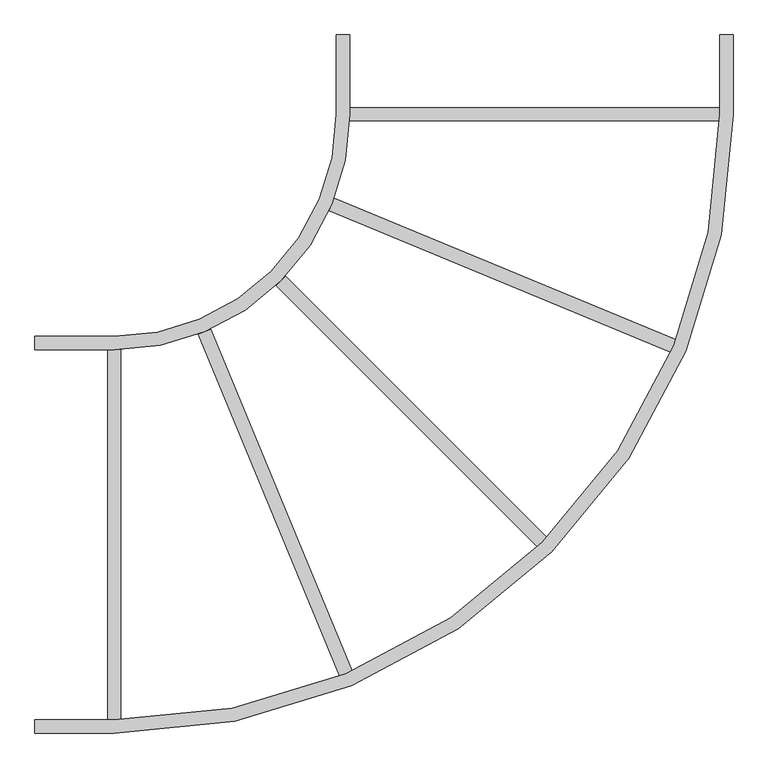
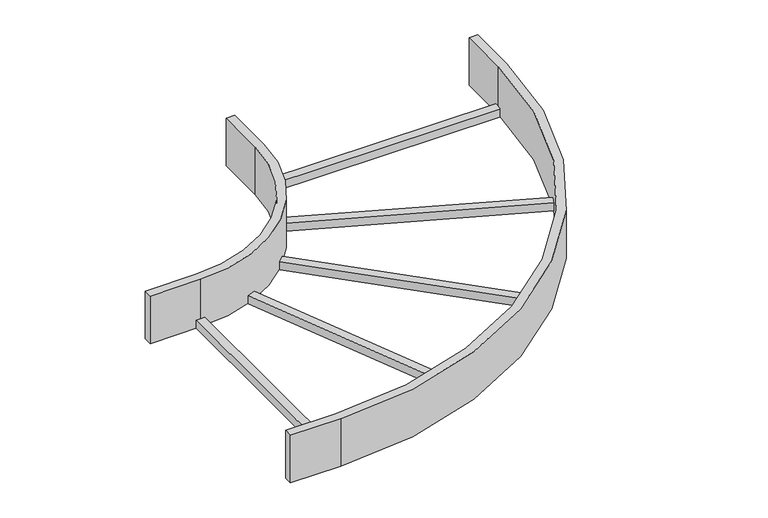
"""IFC4 building model written with IfcOpenShell, lengths in millimetres: cable carrier fitting geometry, BAKS_LD_BEND_Horizontal bend_LDV : LDVC_H100."""

from ifc_helpers import new_model, si_unit, point, frame, frame_2d, origin, place, context, project, spatial, polyline, circle_curve, trimmed, segment, composite_curve, outline, extrude, source, transform, mapped, element, save


def cable_carrier_fitting_9c7536f1(model_context):
    return source(origin(), model_context, "Body", "SweptSolid", [
        extrude(outline(polyline([(-388.3641358, 612.8195292), (-378.6439766, 636.2860693), (267.3325925, 368.7138134), (257.6124333, 345.2472733), (-388.3641358, 612.8195292)])), frame((0.0, 0.0, -75.0), z_axis=(0.0, 0.0, 1.0), x_axis=(1.0, 0.0, 0.0)), (0.0, 0.0, 1.0), 25.4),
        extrude(outline(polyline([(-636.2860693, 378.6439766), (-612.8195292, 388.3641358), (-345.2472733, -257.6124333), (-368.7138134, -267.3325925), (-636.2860693, 378.6439766)])), frame((0.0, 0.0, -75.0), z_axis=(0.0, 0.0, 1.0), x_axis=(1.0, 0.0, 0.0)), (0.0, 0.0, 1.0), 25.4),
        extrude(outline(polyline([(-349.6, 782.3), (-349.6, 807.7), (349.6, 807.7), (349.6, 782.3), (-349.6, 782.3)])), frame((0.0, 0.0, -75.0), z_axis=(0.0, 0.0, 1.0), x_axis=(1.0, 0.0, 0.0)), (0.0, 0.0, 1.0), 25.4),
        extrude(outline(polyline([(-807.7, 349.6), (-782.3, 349.6), (-782.3, -349.6), (-807.7, -349.6), (-807.7, 349.6)])), frame((0.0, 0.0, -75.0), z_axis=(0.0, 0.0, 1.0), x_axis=(1.0, 0.0, 0.0)), (0.0, 0.0, 1.0), 25.4),
        extrude(outline(polyline([(-489.0348958, 471.0743835), (-471.0743835, 489.0348958), (23.3346779, -5.3741656), (5.3741656, -23.3346779), (-489.0348958, 471.0743835)])), frame((0.0, 0.0, -75.0), z_axis=(0.0, 0.0, 1.0), x_axis=(1.0, 0.0, 0.0)), (0.0, 0.0, 1.0), 25.4),
        extrude(outline(composite_curve([segment(polyline([(-945.0, -375.0), (-945.0, -349.6), (-795.0, -349.6)]), True, "CONTINUOUS"), segment(trimmed(circle_curve(frame_2d((-795.0, 795.0)), 1144.6), [point((-795.0, -349.6))], [point((349.6, 795.0))], True, "CARTESIAN"), True, "CONTINUOUS"), segment(polyline([(349.6, 795.0), (349.6, 945.0), (375.0, 945.0), (375.0, 795.0)]), True, "CONTINUOUS"), segment(trimmed(circle_curve(frame_2d((-795.0, 795.0)), 1170.0), [point((375.0, 795.0))], [point((-795.0, -375.0))], False, "CARTESIAN"), True, "CONTINUOUS"), segment(polyline([(-795.0, -375.0), (-945.0, -375.0)]), True, "CONTINUOUS")], self_intersect=False)), frame((0.0, 0.0, -75.0), z_axis=(0.0, 0.0, 1.0), x_axis=(1.0, 0.0, 0.0)), (0.0, 0.0, 1.0), 150.0),
        extrude(outline(composite_curve([segment(polyline([(-945.0, 349.6), (-945.0, 375.0), (-795.0, 375.0)]), True, "CONTINUOUS"), segment(trimmed(circle_curve(frame_2d((-795.0, 795.0)), 420.0), [point((-795.0, 375.0))], [point((-375.0, 795.0))], True, "CARTESIAN"), True, "CONTINUOUS"), segment(polyline([(-375.0, 795.0), (-375.0, 945.0), (-349.6, 945.0), (-349.6, 795.0)]), True, "CONTINUOUS"), segment(trimmed(circle_curve(frame_2d((-795.0, 795.0)), 445.4), [point((-349.6, 795.0))], [point((-795.0, 349.6))], False, "CARTESIAN"), True, "CONTINUOUS"), segment(polyline([(-795.0, 349.6), (-945.0, 349.6)]), True, "CONTINUOUS")], self_intersect=False)), frame((0.0, 0.0, -75.0), z_axis=(0.0, 0.0, 1.0), x_axis=(1.0, 0.0, 0.0)), (0.0, 0.0, 1.0), 150.0),
    ])


if __name__ == "__main__":
    model = new_model("IFC4")
    model_context = context("Model", 3, world=origin())
    ifc_project = project(units=[si_unit("LENGTHUNIT", "METRE", prefix="MILLI")], contexts=[model_context])
    site = spatial("IfcSite", under=ifc_project)
    building = spatial("IfcBuilding", under=site)
    placement = place(None, origin())
    cable_carrier_fitting_shape = cable_carrier_fitting_9c7536f1(model_context)
    element("IfcCableCarrierFitting", 1, ObjectType="BAKS_LD_BEND_Horizontal bend_LDV : LDVC_H100", at=placement, inside=building, context=model_context, shape_type="MappedRepresentation", body=[
        mapped(cable_carrier_fitting_shape, transform((0.0, 0.0, 0.0), x_axis=(1.0, 0.0, 0.0), y_axis=(0.0, 1.0, 0.0), z_axis=(0.0, 0.0, 1.0))),
    ])
    save(model, "model.ifc")
